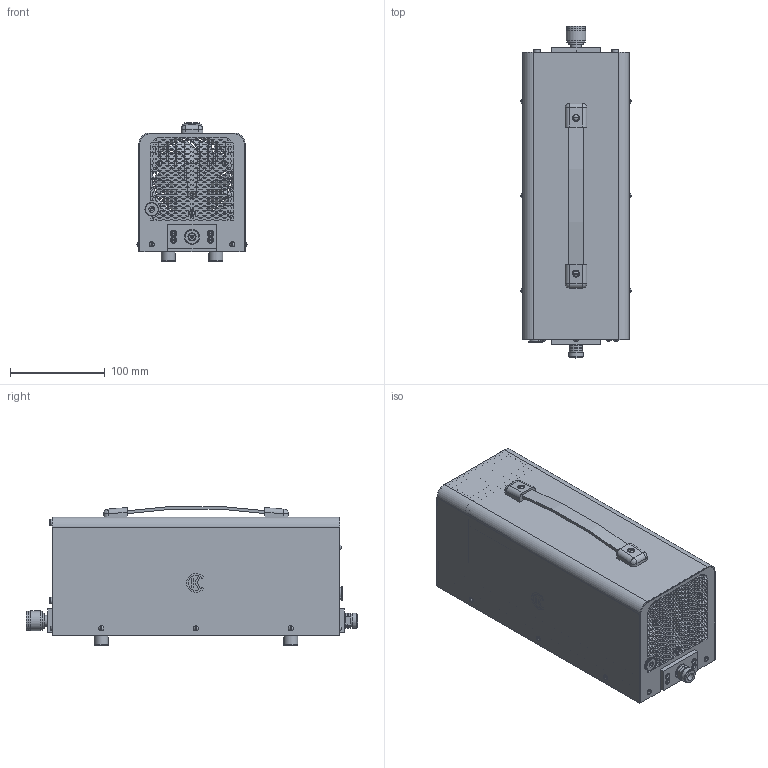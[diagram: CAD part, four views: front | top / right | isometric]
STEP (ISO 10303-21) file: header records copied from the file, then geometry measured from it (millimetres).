
FILE_DESCRIPTION(('STEP AP203'), '1');
FILE_NAME('ÏÐ1-25-1000 new', '', ('UNSPECIFIED'), ('UNSPECIFIED'), 'C3D Converter', 'C3D Toolkit', '');
FILE_SCHEMA(('CONFIG_CONTROL_DESIGN'));
Length unit declared in the file: millimetre
Products named in the file (27): Вентилятор 92x92x25; Вентилятор_винт 92x92x25; Вентилятор_основа 92x92x25; -01; #1848
Assembly tree (66 placements, depth 3):
  (unnamed)
    (unnamed)
    (unnamed)
    (unnamed)
    Вентилятор 92x92x25
      Вентилятор_винт 92x92x25
      Вентилятор_основа 92x92x25
    (unnamed)
    (unnamed)
    (unnamed)
    (unnamed)  x4
    (unnamed)  x4
    (unnamed)
    (unnamed)
    (unnamed)  x4
    (unnamed)  x4
    (unnamed)
    -01
    (unnamed)
    (unnamed)  x2
    (unnamed)
    -01
    (unnamed)  x9
    #1848  x8
    (unnamed)  x13
    -01
    (unnamed)
Bounding box: 116.15 x 350.3 x 146.57 mm (x, y, z)
Volume: 2176621 mm3; surface area: 969323.3 mm2
Topology: 64 solids, 64 shells, 5918 faces, 16922 edges, 11264 vertices
Faces by surface type: plane 5165, cylinder 509, cone 119, torus 65, bspline 41, sphere 17, extrusion 2
Full cylindrical faces by diameter (mm): 1.65 x1, 1.66 x1, 2.459 x22, 3 x32, 3.04 x2, 3.242 x4, 3.5 x16, 4 x4, 4.134 x16, 5 x19, 5.5 x41, 6 x1, 6.5 x8, 6.8 x8, 7 x9, 8.04 x1, 8.06 x1, 8.5 x21, 9 x1, 10 x1, 11 x12, 11.6 x2, 12 x1, 12.7 x1, 14 x2, 14.94 x1, 15 x4, 15.75 x1, 15.87 x1, 16 x4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
Entity records: 233241 total; most frequent: CARTESIAN_POINT 42133, ORIENTED_EDGE 31136, DIRECTION 27159, EDGE_CURVE 15568, VECTOR 14381, LINE 14379, VERTEX_POINT 10515, EDGE_LOOP 7357
